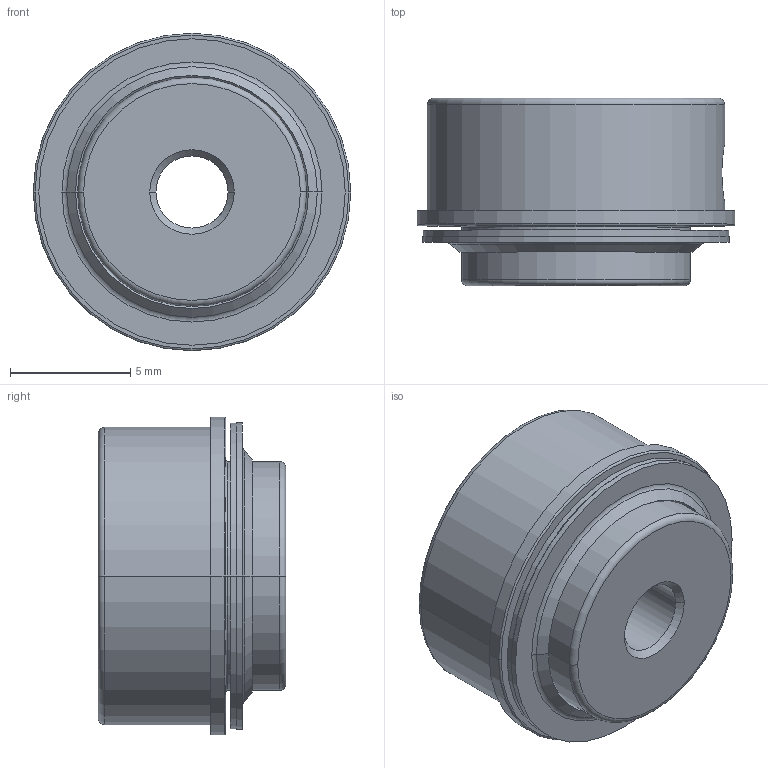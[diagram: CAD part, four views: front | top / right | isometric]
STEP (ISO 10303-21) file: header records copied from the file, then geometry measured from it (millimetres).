
FILE_DESCRIPTION (( 'STEP AP214' ), '1' );
FILE_NAME ('drawing-flange-vcd-de3.STEP', '2021-07-20T14:20:32', ( '' ), ( '' ), 'SwSTEP 2.0', 'SolidWorks 2019', '' );
FILE_SCHEMA (( 'AUTOMOTIVE_DESIGN' ));
Length unit declared in the file: inch
Products named in the file (2): drawing-flange-vcd-de3
Bounding box: 13.21 x 7.8 x 13.21 mm (x, y, z)
Volume: 790.8 mm3; surface area: 945 mm2
Topology: 4 solids, 4 shells, 118 faces, 256 edges, 143 vertices
Faces by surface type: cone 47, cylinder 38, plane 21, torus 12
Entity records: 5236 total; most frequent: CARTESIAN_POINT 1091, DIRECTION 550, ORIENTED_EDGE 504, EDGE_CURVE 252, AXIS2_PLACEMENT_3D 230, VERTEX_POINT 143, EDGE_LOOP 127, UNCERTAINTY_MEASURE_WITH_UNIT 124
